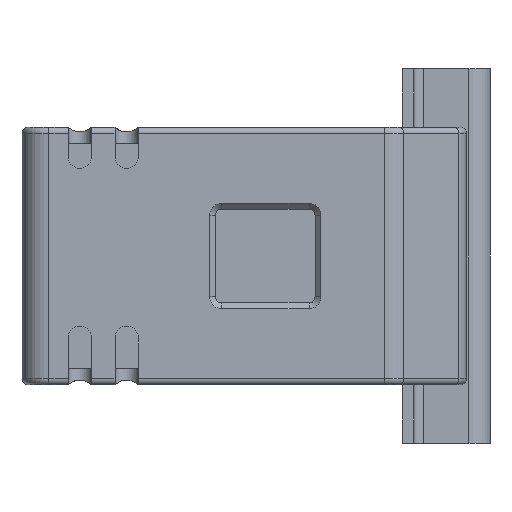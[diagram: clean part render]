
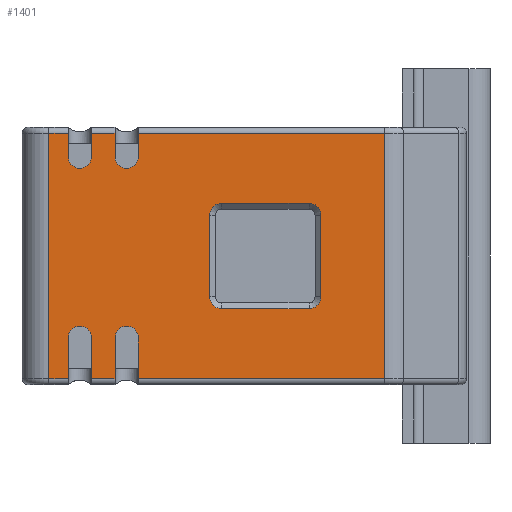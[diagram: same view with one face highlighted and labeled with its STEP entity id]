
A CAD part, front view. The second image highlights one B-rep face of the part: STEP entity #1401.
In plain terms, the highlighted planar face has unit normal (0, -1, 0).
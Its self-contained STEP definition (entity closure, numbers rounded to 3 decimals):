
#1401=ADVANCED_FACE('',(#6695,#6696),#2351,.T.);
#2351=PLANE('',#17948);
#2964=CIRCLE('',#17940,1.);
#2965=CIRCLE('',#17941,1.);
#2966=CIRCLE('',#17942,1.);
#2967=CIRCLE('',#17943,1.);
#2968=CIRCLE('',#17944,1.);
#2969=CIRCLE('',#17945,1.);
#2970=CIRCLE('',#17946,1.);
#2971=CIRCLE('',#17947,1.);
#3679=LINE('',#25365,#5281);
#3680=LINE('',#25368,#5282);
#3681=LINE('',#25370,#5283);
#3682=LINE('',#25374,#5284);
#3683=LINE('',#25376,#5285);
#3684=LINE('',#25378,#5286);
#3685=LINE('',#25382,#5287);
#3686=LINE('',#25384,#5288);
#3687=LINE('',#25386,#5289);
#3688=LINE('',#25388,#5290);
#3689=LINE('',#25390,#5291);
#3690=LINE('',#25394,#5292);
#3691=LINE('',#25396,#5293);
#3692=LINE('',#25398,#5294);
#3693=LINE('',#25402,#5295);
#3694=LINE('',#25404,#5296);
#3695=LINE('',#25405,#5297);
#3696=LINE('',#25410,#5298);
#3697=LINE('',#25414,#5299);
#3698=LINE('',#25418,#5300);
#5281=VECTOR('',#19676,1.);
#5282=VECTOR('',#19677,1.);
#5283=VECTOR('',#19678,1.);
#5284=VECTOR('',#19681,1.);
#5285=VECTOR('',#19682,1.);
#5286=VECTOR('',#19683,1.);
#5287=VECTOR('',#19686,1.);
#5288=VECTOR('',#19687,1.);
#5289=VECTOR('',#19688,1.);
#5290=VECTOR('',#19689,1.);
#5291=VECTOR('',#19690,1.);
#5292=VECTOR('',#19693,1.);
#5293=VECTOR('',#19694,1.);
#5294=VECTOR('',#19695,1.);
#5295=VECTOR('',#19698,1.);
#5296=VECTOR('',#19699,1.);
#5297=VECTOR('',#19700,1.);
#5298=VECTOR('',#19703,1.);
#5299=VECTOR('',#19706,1.);
#5300=VECTOR('',#19709,1.);
#6695=FACE_BOUND('',#6868,.T.);
#6696=FACE_BOUND('',#6869,.T.);
#6868=EDGE_LOOP('',(#8435,#8436,#8437,#8438,#8439,#8440,#8441,#8442,#8443,
#8444,#8445,#8446,#8447,#8448,#8449,#8450,#8451,#8452,#8453,#8454));
#6869=EDGE_LOOP('',(#8455,#8456,#8457,#8458,#8459,#8460,#8461,#8462));
#8435=ORIENTED_EDGE('',*,*,#15188,.F.);
#8436=ORIENTED_EDGE('',*,*,#15189,.T.);
#8437=ORIENTED_EDGE('',*,*,#15190,.F.);
#8438=ORIENTED_EDGE('',*,*,#15191,.F.);
#8439=ORIENTED_EDGE('',*,*,#15192,.F.);
#8440=ORIENTED_EDGE('',*,*,#15193,.T.);
#8441=ORIENTED_EDGE('',*,*,#15194,.T.);
#8442=ORIENTED_EDGE('',*,*,#15195,.T.);
#8443=ORIENTED_EDGE('',*,*,#15196,.T.);
#8444=ORIENTED_EDGE('',*,*,#15197,.T.);
#8445=ORIENTED_EDGE('',*,*,#15198,.T.);
#8446=ORIENTED_EDGE('',*,*,#15199,.T.);
#8447=ORIENTED_EDGE('',*,*,#15200,.F.);
#8448=ORIENTED_EDGE('',*,*,#15201,.F.);
#8449=ORIENTED_EDGE('',*,*,#15202,.F.);
#8450=ORIENTED_EDGE('',*,*,#15203,.T.);
#8451=ORIENTED_EDGE('',*,*,#15204,.T.);
#8452=ORIENTED_EDGE('',*,*,#15205,.T.);
#8453=ORIENTED_EDGE('',*,*,#15206,.T.);
#8454=ORIENTED_EDGE('',*,*,#15207,.T.);
#8455=ORIENTED_EDGE('',*,*,#15208,.T.);
#8456=ORIENTED_EDGE('',*,*,#15209,.T.);
#8457=ORIENTED_EDGE('',*,*,#15210,.T.);
#8458=ORIENTED_EDGE('',*,*,#15211,.T.);
#8459=ORIENTED_EDGE('',*,*,#15212,.T.);
#8460=ORIENTED_EDGE('',*,*,#15213,.T.);
#8461=ORIENTED_EDGE('',*,*,#15214,.T.);
#8462=ORIENTED_EDGE('',*,*,#15215,.T.);
#13487=VERTEX_POINT('',#25366);
#13488=VERTEX_POINT('',#25367);
#13489=VERTEX_POINT('',#25369);
#13490=VERTEX_POINT('',#25371);
#13491=VERTEX_POINT('',#25373);
#13492=VERTEX_POINT('',#25375);
#13493=VERTEX_POINT('',#25377);
#13494=VERTEX_POINT('',#25379);
#13495=VERTEX_POINT('',#25381);
#13496=VERTEX_POINT('',#25383);
#13497=VERTEX_POINT('',#25385);
#13498=VERTEX_POINT('',#25387);
#13499=VERTEX_POINT('',#25389);
#13500=VERTEX_POINT('',#25391);
#13501=VERTEX_POINT('',#25393);
#13502=VERTEX_POINT('',#25395);
#13503=VERTEX_POINT('',#25397);
#13504=VERTEX_POINT('',#25399);
#13505=VERTEX_POINT('',#25401);
#13506=VERTEX_POINT('',#25403);
#13507=VERTEX_POINT('',#25406);
#13508=VERTEX_POINT('',#25407);
#13509=VERTEX_POINT('',#25409);
#13510=VERTEX_POINT('',#25411);
#13511=VERTEX_POINT('',#25413);
#13512=VERTEX_POINT('',#25415);
#13513=VERTEX_POINT('',#25417);
#13514=VERTEX_POINT('',#25419);
#15188=EDGE_CURVE('',#13487,#13488,#3679,.T.);
#15189=EDGE_CURVE('',#13487,#13489,#3680,.T.);
#15190=EDGE_CURVE('',#13490,#13489,#3681,.T.);
#15191=EDGE_CURVE('',#13491,#13490,#2964,.T.);
#15192=EDGE_CURVE('',#13492,#13491,#3682,.T.);
#15193=EDGE_CURVE('',#13492,#13493,#3683,.T.);
#15194=EDGE_CURVE('',#13493,#13494,#3684,.T.);
#15195=EDGE_CURVE('',#13494,#13495,#2965,.T.);
#15196=EDGE_CURVE('',#13495,#13496,#3685,.T.);
#15197=EDGE_CURVE('',#13496,#13497,#3686,.T.);
#15198=EDGE_CURVE('',#13497,#13498,#3687,.T.);
#15199=EDGE_CURVE('',#13498,#13499,#3688,.T.);
#15200=EDGE_CURVE('',#13500,#13499,#3689,.T.);
#15201=EDGE_CURVE('',#13501,#13500,#2966,.T.);
#15202=EDGE_CURVE('',#13502,#13501,#3690,.T.);
#15203=EDGE_CURVE('',#13502,#13503,#3691,.T.);
#15204=EDGE_CURVE('',#13503,#13504,#3692,.T.);
#15205=EDGE_CURVE('',#13504,#13505,#2967,.T.);
#15206=EDGE_CURVE('',#13505,#13506,#3693,.T.);
#15207=EDGE_CURVE('',#13506,#13488,#3694,.T.);
#15208=EDGE_CURVE('',#13507,#13508,#3695,.T.);
#15209=EDGE_CURVE('',#13508,#13509,#2968,.T.);
#15210=EDGE_CURVE('',#13509,#13510,#3696,.T.);
#15211=EDGE_CURVE('',#13510,#13511,#2969,.T.);
#15212=EDGE_CURVE('',#13511,#13512,#3697,.T.);
#15213=EDGE_CURVE('',#13512,#13513,#2970,.T.);
#15214=EDGE_CURVE('',#13513,#13514,#3698,.T.);
#15215=EDGE_CURVE('',#13514,#13507,#2971,.T.);
#17940=AXIS2_PLACEMENT_3D('',#25372,#19679,#19680);
#17941=AXIS2_PLACEMENT_3D('',#25380,#19684,#19685);
#17942=AXIS2_PLACEMENT_3D('',#25392,#19691,#19692);
#17943=AXIS2_PLACEMENT_3D('',#25400,#19696,#19697);
#17944=AXIS2_PLACEMENT_3D('',#25408,#19701,#19702);
#17945=AXIS2_PLACEMENT_3D('',#25412,#19704,#19705);
#17946=AXIS2_PLACEMENT_3D('',#25416,#19707,#19708);
#17947=AXIS2_PLACEMENT_3D('',#25420,#19710,#19711);
#17948=AXIS2_PLACEMENT_3D('',#25421,#19712,#19713);
#19676=DIRECTION('',(0.,0.,-1.));
#19677=DIRECTION('',(-1.,0.,0.));
#19678=DIRECTION('',(0.,0.,1.));
#19679=DIRECTION('',(0.,-1.,0.));
#19680=DIRECTION('',(1.,0.,0.));
#19681=DIRECTION('',(0.,0.,-1.));
#19682=DIRECTION('',(-1.,0.,0.));
#19683=DIRECTION('',(0.,0.,-1.));
#19684=DIRECTION('',(0.,1.,0.));
#19685=DIRECTION('',(1.,0.,0.));
#19686=DIRECTION('',(0.,0.,1.));
#19687=DIRECTION('',(-1.,0.,0.));
#19688=DIRECTION('',(0.,0.,-1.));
#19689=DIRECTION('',(1.,0.,0.));
#19690=DIRECTION('',(0.,0.,-1.));
#19691=DIRECTION('',(0.,-1.,0.));
#19692=DIRECTION('',(1.,0.,0.));
#19693=DIRECTION('',(0.,0.,1.));
#19694=DIRECTION('',(1.,0.,0.));
#19695=DIRECTION('',(0.,0.,1.));
#19696=DIRECTION('',(0.,1.,0.));
#19697=DIRECTION('',(1.,0.,0.));
#19698=DIRECTION('',(0.,0.,-1.));
#19699=DIRECTION('',(1.,0.,0.));
#19700=DIRECTION('',(-1.,0.,0.));
#19701=DIRECTION('',(0.,1.,0.));
#19702=DIRECTION('',(1.,0.,0.));
#19703=DIRECTION('',(0.,0.,1.));
#19704=DIRECTION('',(0.,1.,0.));
#19705=DIRECTION('',(1.,0.,0.));
#19706=DIRECTION('',(1.,0.,0.));
#19707=DIRECTION('',(0.,1.,0.));
#19708=DIRECTION('',(1.,0.,0.));
#19709=DIRECTION('',(0.,0.,-1.));
#19710=DIRECTION('',(0.,1.,0.));
#19711=DIRECTION('',(1.,0.,0.));
#19712=DIRECTION('',(0.,-1.,0.));
#19713=DIRECTION('',(1.,0.,0.));
#25365=CARTESIAN_POINT('',(108.71,78.459,19.75));
#25366=CARTESIAN_POINT('',(108.71,78.459,19.25));
#25367=CARTESIAN_POINT('',(108.71,78.459,-1.75));
#25368=CARTESIAN_POINT('',(87.667,78.459,19.25));
#25369=CARTESIAN_POINT('',(87.667,78.459,19.25));
#25370=CARTESIAN_POINT('',(87.667,78.459,-3.65));
#25371=CARTESIAN_POINT('',(87.667,78.459,17.25));
#25372=CARTESIAN_POINT('',(86.667,78.459,17.25));
#25373=CARTESIAN_POINT('',(85.667,78.459,17.25));
#25374=CARTESIAN_POINT('',(85.667,78.459,1.75));
#25375=CARTESIAN_POINT('',(85.667,78.459,19.25));
#25376=CARTESIAN_POINT('',(83.668,78.459,19.25));
#25377=CARTESIAN_POINT('',(83.668,78.459,19.25));
#25378=CARTESIAN_POINT('',(83.668,78.459,19.75));
#25379=CARTESIAN_POINT('',(83.668,78.459,17.25));
#25380=CARTESIAN_POINT('',(82.668,78.459,17.25));
#25381=CARTESIAN_POINT('',(81.668,78.459,17.25));
#25382=CARTESIAN_POINT('',(81.668,78.459,19.75));
#25383=CARTESIAN_POINT('',(81.668,78.459,19.25));
#25384=CARTESIAN_POINT('',(80.017,78.459,19.25));
#25385=CARTESIAN_POINT('',(80.017,78.459,19.25));
#25386=CARTESIAN_POINT('',(80.017,78.459,19.75));
#25387=CARTESIAN_POINT('',(80.017,78.459,-1.75));
#25388=CARTESIAN_POINT('',(108.71,78.459,-1.75));
#25389=CARTESIAN_POINT('',(81.668,78.459,-1.75));
#25390=CARTESIAN_POINT('',(81.668,78.459,19.75));
#25391=CARTESIAN_POINT('',(81.668,78.459,1.75));
#25392=CARTESIAN_POINT('',(82.668,78.459,1.75));
#25393=CARTESIAN_POINT('',(83.668,78.459,1.75));
#25394=CARTESIAN_POINT('',(83.668,78.459,1.75));
#25395=CARTESIAN_POINT('',(83.668,78.459,-1.75));
#25396=CARTESIAN_POINT('',(108.71,78.459,-1.75));
#25397=CARTESIAN_POINT('',(85.667,78.459,-1.75));
#25398=CARTESIAN_POINT('',(85.667,78.459,19.75));
#25399=CARTESIAN_POINT('',(85.667,78.459,1.75));
#25400=CARTESIAN_POINT('',(86.667,78.459,1.75));
#25401=CARTESIAN_POINT('',(87.667,78.459,1.75));
#25402=CARTESIAN_POINT('',(87.667,78.459,19.75));
#25403=CARTESIAN_POINT('',(87.667,78.459,-1.75));
#25404=CARTESIAN_POINT('',(108.71,78.459,-1.75));
#25405=CARTESIAN_POINT('',(108.71,78.459,4.25));
#25406=CARTESIAN_POINT('',(102.262,78.459,4.25));
#25407=CARTESIAN_POINT('',(94.762,78.459,4.25));
#25408=CARTESIAN_POINT('',(94.762,78.459,5.25));
#25409=CARTESIAN_POINT('',(93.762,78.459,5.25));
#25410=CARTESIAN_POINT('',(93.762,78.459,19.75));
#25411=CARTESIAN_POINT('',(93.762,78.459,12.25));
#25412=CARTESIAN_POINT('',(94.762,78.459,12.25));
#25413=CARTESIAN_POINT('',(94.762,78.459,13.25));
#25414=CARTESIAN_POINT('',(108.71,78.459,13.25));
#25415=CARTESIAN_POINT('',(102.262,78.459,13.25));
#25416=CARTESIAN_POINT('',(102.262,78.459,12.25));
#25417=CARTESIAN_POINT('',(103.262,78.459,12.25));
#25418=CARTESIAN_POINT('',(103.262,78.459,19.75));
#25419=CARTESIAN_POINT('',(103.262,78.459,5.25));
#25420=CARTESIAN_POINT('',(102.262,78.459,5.25));
#25421=CARTESIAN_POINT('',(108.71,78.459,19.75));
